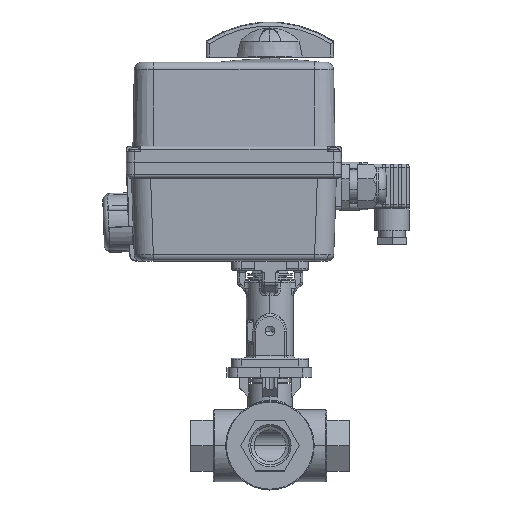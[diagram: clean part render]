
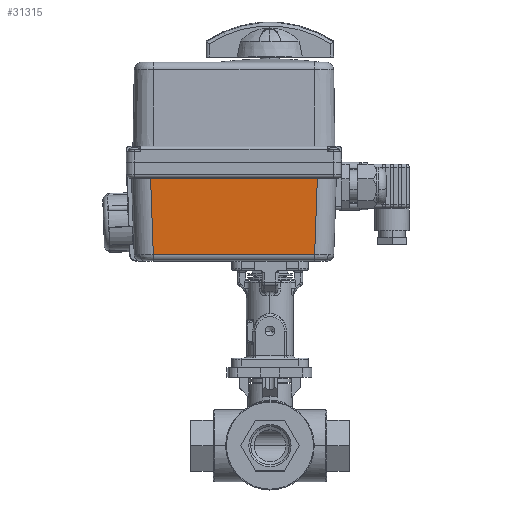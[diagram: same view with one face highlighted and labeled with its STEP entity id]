
A CAD part, top view. The second image highlights one B-rep face of the part: STEP entity #31315.
In plain terms, the highlighted planar face has unit normal (0, -0.035, 0.999).
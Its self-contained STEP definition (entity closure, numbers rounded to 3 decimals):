
#382 = EDGE_LOOP ( 'NONE', ( #16332, #21532, #23237, #159198 ) ) ;
#5598 = CARTESIAN_POINT ( 'NONE',  ( 62.5, -62., 40.5 ) ) ;
#7003 = VECTOR ( 'NONE', #198632, 1000. ) ;
#10695 = LINE ( 'NONE', #16544, #76589 ) ;
#13716 = VECTOR ( 'NONE', #183665, 1000. ) ;
#16332 = ORIENTED_EDGE ( 'NONE', *, *, #40196, .T. ) ;
#16544 = CARTESIAN_POINT ( 'NONE',  ( 62.5, -58.14, 40.635 ) ) ;
#19786 = PLANE ( 'NONE',  #186181 ) ;
#21532 = ORIENTED_EDGE ( 'NONE', *, *, #126276, .T. ) ;
#23237 = ORIENTED_EDGE ( 'NONE', *, *, #64433, .T. ) ;
#31315 = ADVANCED_FACE ( 'NONE', ( #172667 ), #19786, .T. ) ;
#40196 = EDGE_CURVE ( 'NONE', #194475, #156236, #54950, .T. ) ;
#44635 = CARTESIAN_POINT ( 'NONE',  ( -50.37, -65.937, 40.363 ) ) ;
#52202 = CARTESIAN_POINT ( 'NONE',  ( 50.642, -58.14, 40.635 ) ) ;
#54950 = LINE ( 'NONE', #44635, #173934 ) ;
#58347 = CARTESIAN_POINT ( 'NONE',  ( -50.642, -58.14, 40.635 ) ) ;
#59815 = CARTESIAN_POINT ( 'NONE',  ( 52.323, -10., 42.316 ) ) ;
#60194 = DIRECTION ( 'NONE',  ( 0.035, -0.999, -0.035 ) ) ;
#64346 = LINE ( 'NONE', #103767, #13716 ) ;
#64433 = EDGE_CURVE ( 'NONE', #108654, #120876, #64346, .T. ) ;
#76589 = VECTOR ( 'NONE', #162336, 1000. ) ;
#85673 = DIRECTION ( 'NONE',  ( 0., -0.035, 0.999 ) ) ;
#95088 = EDGE_CURVE ( 'NONE', #120876, #194475, #196888, .T. ) ;
#103767 = CARTESIAN_POINT ( 'NONE',  ( 50.522, -61.582, 40.515 ) ) ;
#108654 = VERTEX_POINT ( 'NONE', #52202 ) ;
#120876 = VERTEX_POINT ( 'NONE', #59815 ) ;
#126276 = EDGE_CURVE ( 'NONE', #156236, #108654, #10695, .T. ) ;
#156236 = VERTEX_POINT ( 'NONE', #58347 ) ;
#157144 = CARTESIAN_POINT ( 'NONE',  ( -52.323, -10., 42.316 ) ) ;
#159198 = ORIENTED_EDGE ( 'NONE', *, *, #95088, .T. ) ;
#162336 = DIRECTION ( 'NONE',  ( 1., 0., 0. ) ) ;
#172667 = FACE_OUTER_BOUND ( 'NONE', #382, .T. ) ;
#173934 = VECTOR ( 'NONE', #60194, 1000. ) ;
#183665 = DIRECTION ( 'NONE',  ( 0.035, 0.999, 0.035 ) ) ;
#186181 = AXIS2_PLACEMENT_3D ( 'NONE', #5598, #85673, #197408 ) ;
#194475 = VERTEX_POINT ( 'NONE', #157144 ) ;
#196888 = LINE ( 'NONE', #200039, #7003 ) ;
#197408 = DIRECTION ( 'NONE',  ( 0., -0.999, -0.035 ) ) ;
#198632 = DIRECTION ( 'NONE',  ( -1., 0., 0. ) ) ;
#200039 = CARTESIAN_POINT ( 'NONE',  ( 62.5, -10., 42.316 ) ) ;
